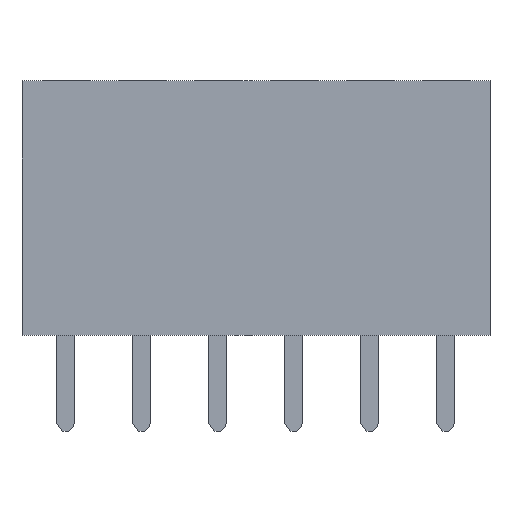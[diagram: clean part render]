
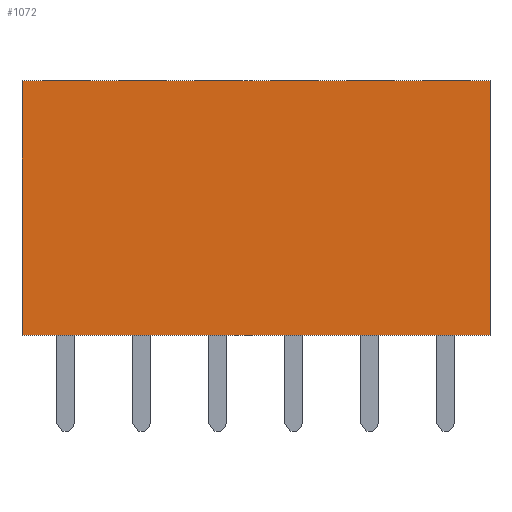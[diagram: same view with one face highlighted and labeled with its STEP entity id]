
A CAD part, top view. The second image highlights one B-rep face of the part: STEP entity #1072.
In plain terms, the highlighted planar face has unit normal (0, 0, 1).
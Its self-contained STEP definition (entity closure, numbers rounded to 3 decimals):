
#325 = EDGE_LOOP ( 'NONE', ( #8958, #9042, #8988, #9037 ) ) ;
#620 = EDGE_CURVE ( 'NONE', #3805, #3403, #6359, .T. ) ;
#741 = EDGE_CURVE ( 'NONE', #4071, #3883, #9470, .T. ) ;
#1072 = ADVANCED_FACE ( 'NONE', ( #7440 ), #7437, .T. ) ;
#1195 = EDGE_CURVE ( 'NONE', #3403, #4071, #7654, .T. ) ;
#1240 = EDGE_CURVE ( 'NONE', #3883, #3805, #7759, .T. ) ;
#3403 = VERTEX_POINT ( 'NONE', #5579 ) ;
#3805 = VERTEX_POINT ( 'NONE', #5866 ) ;
#3883 = VERTEX_POINT ( 'NONE', #5911 ) ;
#4071 = VERTEX_POINT ( 'NONE', #6052 ) ;
#4312 = AXIS2_PLACEMENT_3D ( 'NONE', #7467, #7416, #7410 ) ;
#4354 = VECTOR ( 'NONE', #7761, 1000. ) ;
#4778 = VECTOR ( 'NONE', #6369, 1000. ) ;
#4893 = VECTOR ( 'NONE', #7648, 1000. ) ;
#5006 = VECTOR ( 'NONE', #9607, 1000. ) ;
#5579 = CARTESIAN_POINT ( 'NONE',  ( 1004.597, 1093.67, 2.5 ) ) ;
#5866 = CARTESIAN_POINT ( 'NONE',  ( 1004.597, 1102.171, 2.5 ) ) ;
#5911 = CARTESIAN_POINT ( 'NONE',  ( 1020.237, 1102.171, 2.5 ) ) ;
#6052 = CARTESIAN_POINT ( 'NONE',  ( 1020.237, 1093.67, 2.5 ) ) ;
#6359 = LINE ( 'NONE', #6367, #4778 ) ;
#6367 = CARTESIAN_POINT ( 'NONE',  ( 1004.597, 1097.92, 2.5 ) ) ;
#6369 = DIRECTION ( 'NONE',  ( 0., -1., 0. ) ) ;
#7410 = DIRECTION ( 'NONE',  ( 1., 0., 0. ) ) ;
#7416 = DIRECTION ( 'NONE',  ( 0., 0., 1. ) ) ;
#7437 = PLANE ( 'NONE',  #4312 ) ;
#7440 = FACE_OUTER_BOUND ( 'NONE', #325, .T. ) ;
#7467 = CARTESIAN_POINT ( 'NONE',  ( 1004.597, 1093.67, 2.5 ) ) ;
#7648 = DIRECTION ( 'NONE',  ( 1., 0., 0. ) ) ;
#7654 = LINE ( 'NONE', #7676, #4893 ) ;
#7676 = CARTESIAN_POINT ( 'NONE',  ( 1012.417, 1093.67, 2.5 ) ) ;
#7759 = LINE ( 'NONE', #7760, #4354 ) ;
#7760 = CARTESIAN_POINT ( 'NONE',  ( 1012.417, 1102.171, 2.5 ) ) ;
#7761 = DIRECTION ( 'NONE',  ( -1., 0., 0. ) ) ;
#8958 = ORIENTED_EDGE ( 'NONE', *, *, #1240, .T. ) ;
#8988 = ORIENTED_EDGE ( 'NONE', *, *, #1195, .T. ) ;
#9037 = ORIENTED_EDGE ( 'NONE', *, *, #741, .T. ) ;
#9042 = ORIENTED_EDGE ( 'NONE', *, *, #620, .T. ) ;
#9470 = LINE ( 'NONE', #9480, #5006 ) ;
#9480 = CARTESIAN_POINT ( 'NONE',  ( 1020.237, 1097.92, 2.5 ) ) ;
#9607 = DIRECTION ( 'NONE',  ( 0., 1., 0. ) ) ;
